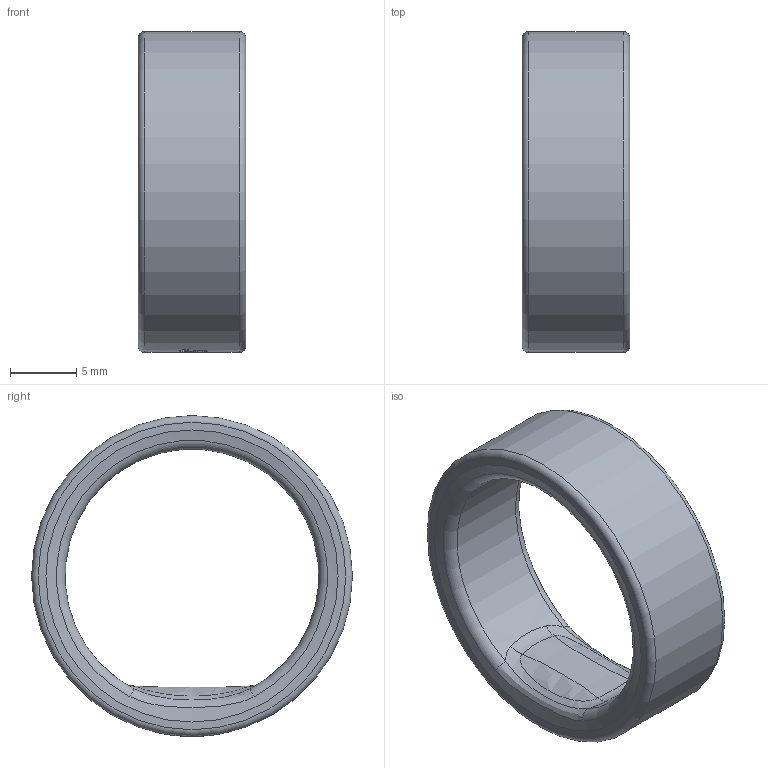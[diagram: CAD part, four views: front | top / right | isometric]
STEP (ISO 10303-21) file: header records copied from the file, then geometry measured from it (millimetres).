
FILE_DESCRIPTION(/* description */ (''),/* implementation_level */ '2;1');
FILE_NAME(/* name */ 'Size 08_Sizing Kit v7.step',/* time_stamp */ '2024-05-07T15:24:57+05:30',/* author */ (''),/* organization */ (''),/* preprocessor_version */ 'ST-DEVELOPER v20',/* originating_system */ 'Autodesk Translation Framework v12.20.1.177',/* authorisation */ '');
FILE_SCHEMA (('AUTOMOTIVE_DESIGN { 1 0 10303 214 3 1 1 }'));
Length unit declared in the file: millimetre
Products named in the file (2): Size 08_Sizing Kit; S08 v6
Assembly tree (1 placements, depth 2):
  Size 08_Sizing Kit
    S08 v6
Bounding box: 8.1 x 24.16 x 24.16 mm (x, y, z)
Volume: 1351.8 mm3; surface area: 1676.2 mm2
Topology: 1 solids, 3 shells, 122 faces, 314 edges, 206 vertices
Faces by surface type: bspline 92, plane 13, cylinder 11, torus 4, cone 2
Full cylindrical faces by diameter (mm): 22.107 x2, 22.166 x2, 23.495 x2, 24.162 x1
Entity records: 6828 total; most frequent: CARTESIAN_POINT 4373, ORIENTED_EDGE 628, EDGE_CURVE 314, DIRECTION 250, VERTEX_POINT 206, B_SPLINE_CURVE_WITH_KNOTS 176, EDGE_LOOP 136, FACE_OUTER_BOUND 122
